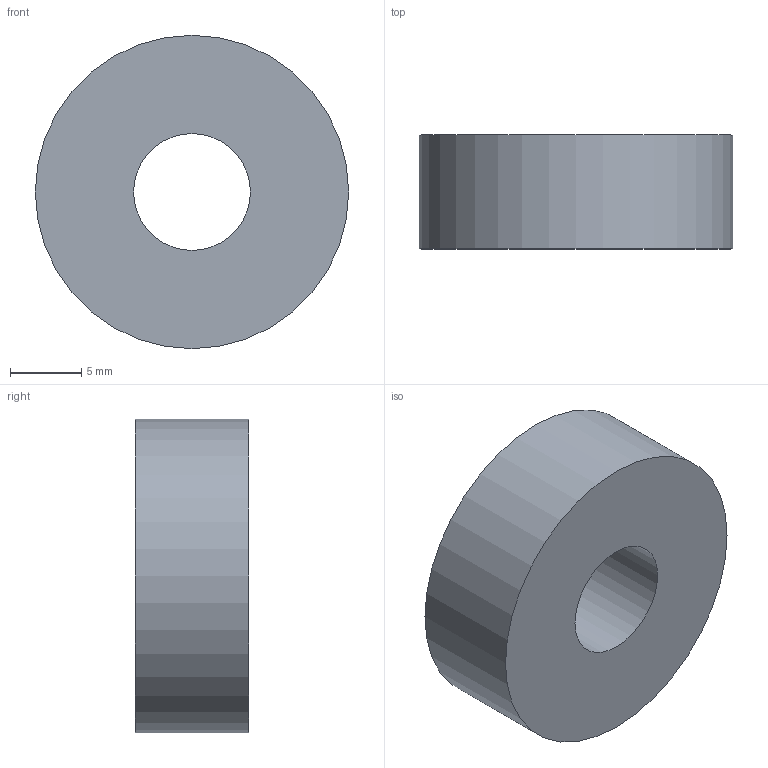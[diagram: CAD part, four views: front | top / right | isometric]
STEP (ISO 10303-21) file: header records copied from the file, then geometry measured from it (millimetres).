
FILE_DESCRIPTION(('Open CASCADE Model'),'2;1');
FILE_NAME('Open CASCADE Shape Model','2026-10-04T01:02:25',('Author'),( 'Open CASCADE'),'Open CASCADE STEP processor 8.0','Open CASCADE 8.0' ,'Unknown');
FILE_SCHEMA(('AUTOMOTIVE_DESIGN { 1 0 10303 214 1 1 1 1 }'));
Length unit declared in the file: millimetre
Products named in the file (1): Open CASCADE STEP translator 8.0 31
Bounding box: 22 x 8 x 22 mm (x, y, z)
Volume: 2618.6 mm3; surface area: 1413.7 mm2
Topology: 1 solids, 1 shells, 4 faces, 6 edges, 4 vertices
Faces by surface type: cylinder 2, plane 2
Full cylindrical faces by diameter (mm): 8.2 x1, 22 x1
Entity records: 186 total; most frequent: DIRECTION 32, CARTESIAN_POINT 27, ORIENTED_EDGE 12, PCURVE 12, DEFINITIONAL_REPRESENTATION 12, LINE 10, VECTOR 10, AXIS2_PLACEMENT_3D 9
